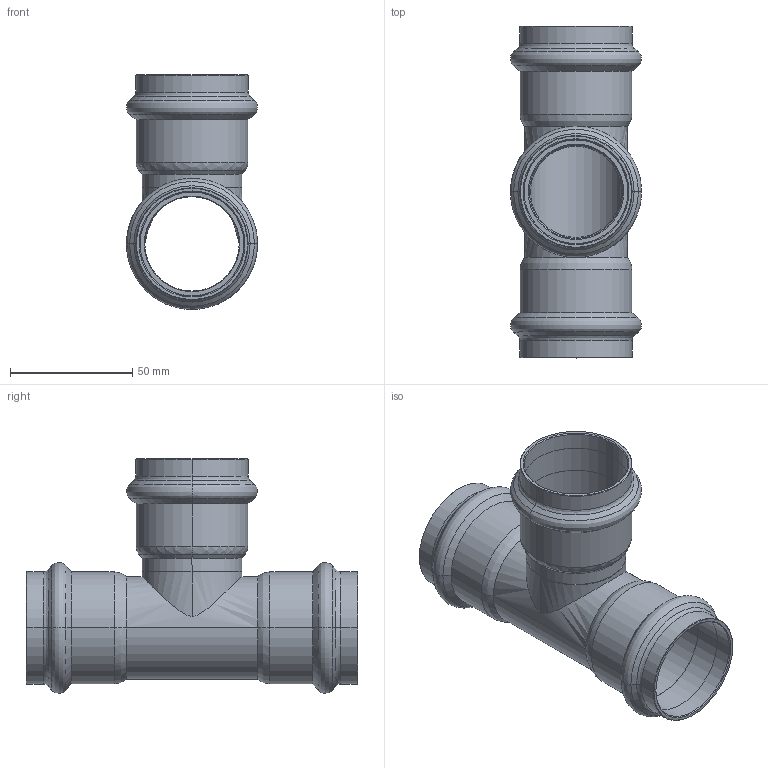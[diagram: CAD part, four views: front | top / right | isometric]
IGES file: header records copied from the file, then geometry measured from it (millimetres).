
Start section: Elysium IGES Interface
Global section: file name: C:\Users\Wallenburg\Desktop\3d modellen sudo\S-Pr VP\SP6130V\6130VW42.igs; native system: CoCreate Modeling 17.00A  17-Jun-2010; preprocessor: CoCreate IGES_3D V2.2; author: Unknown; organization: Unknown; date: 20130117.130524; units: millimetre
Bounding box: 53.61 x 135.73 x 96.04 mm (x, y, z)
Volume: 53652.4 mm3; surface area: 52334 mm2
Topology: 1 solids, 1 shells, 128 faces, 265 edges, 142 vertices
Faces by surface type: bspline 128
